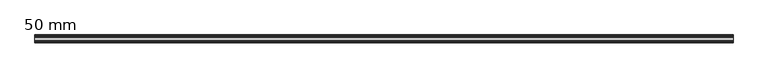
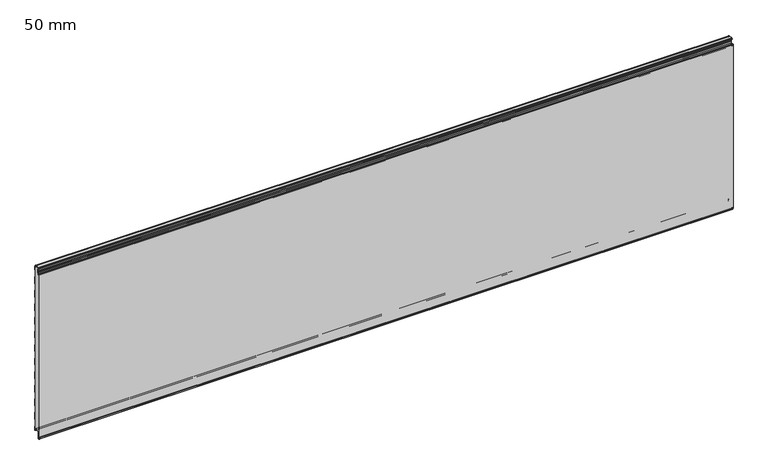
"""IFC4 building model written with IfcOpenShell, lengths in millimetres: plate geometry, HIANSA PANEL - H20.F05.004-HFM-PANELES DE FACHADA HOR - PANEL LISO - Panel de Muro Cortina : 50 mm."""

from ifc_helpers import new_model, si_unit, point, frame, frame_2d, origin, place, context, project, spatial, polyline, circle_curve, trimmed, segment, composite_curve, outline, extrude, source, transform, mapped, element, save


def plate_50_mm_5ad36695(model_context):
    return source(origin(), model_context, "Body", "SweptSolid", [
        extrude(outline(polyline([(-33.7988607, 1122.7800953), (-33.0080811, 1123.2810466), (-13.7002601, 1123.2810466), (-12.8994274, 1122.7800953), (-33.7988607, 1122.7800953)])), frame((-2200.0, 0.0, 0.0), z_axis=(1.0, 0.0, 0.0), x_axis=(0.0, 1.0, 0.0)), (0.0, 0.0, 1.0), 4400.0),
        extrude(outline(polyline([(-33.772834, 25.3210467), (-12.920579, 25.3210467), (-13.7002597, 24.8210465), (-33.011032, 24.8210465), (-33.772834, 25.3210467)])), frame((-2200.0, 0.0, 0.0), z_axis=(1.0, 0.0, 0.0), x_axis=(0.0, 1.0, 0.0)), (0.0, 0.0, 1.0), 4400.0),
        extrude(outline(composite_curve([segment(polyline([(-49.9990488, 1086.1667807), (-49.3593999, 1088.7253764)]), True, "CONTINUOUS"), segment(trimmed(circle_curve(frame_2d((-47.5161291, 1088.2645587)), 1.9), [point((-49.3593999, 1088.7253764))], [point((-47.5161291, 1090.1645587))], False, "CARTESIAN"), True, "CONTINUOUS"), segment(polyline([(-47.5161291, 1090.1645587), (-45.3767084, 1090.1645587)]), True, "CONTINUOUS"), segment(trimmed(circle_curve(frame_2d((-45.3767084, 1089.1645587)), 1.0), [point((-45.3767084, 1090.1645587))], [point((-44.3767084, 1089.1645587))], False, "CARTESIAN"), True, "CONTINUOUS"), segment(polyline([(-44.3767084, 1089.1645587), (-44.3767084, 1079.2490488)]), True, "CONTINUOUS"), segment(trimmed(circle_curve(frame_2d((-43.3767084, 1079.2490488)), 1.0), [point((-44.3767084, 1079.2490488))], [point((-43.3767084, 1078.2490488))], True, "CARTESIAN"), True, "CONTINUOUS"), segment(polyline([(-43.3767084, 1078.2490488), (-39.1267084, 1078.2490488)]), True, "CONTINUOUS"), segment(trimmed(circle_curve(frame_2d((-39.1267084, 1079.2490488)), 1.0), [point((-39.1267084, 1078.2490488))], [point((-38.1267084, 1079.2490488))], True, "CARTESIAN"), True, "CONTINUOUS"), segment(polyline([(-38.1267084, 1079.2490488), (-38.1267084, 1082.1003519)]), True, "CONTINUOUS"), segment(trimmed(circle_curve(frame_2d((-36.1267084, 1082.1003519)), 2.0), [point((-38.1267084, 1082.1003519))], [point((-37.2738613, 1083.738656))], False, "CARTESIAN"), True, "CONTINUOUS"), segment(polyline([(-37.2738613, 1083.738656), (-31.2163437, 1087.9801754)]), True, "CONTINUOUS"), segment(trimmed(circle_curve(frame_2d((-32.0767084, 1089.2089035)), 1.5), [point((-31.2163437, 1087.9801754))], [point((-30.5767084, 1089.2089035))], True, "CARTESIAN"), True, "CONTINUOUS"), segment(polyline([(-30.5767084, 1089.2089035), (-30.5767084, 1098.4402031), (-29.6767084, 1099.9990488), (-30.5767084, 1101.5578945), (-30.5767084, 1110.7891941)]), True, "CONTINUOUS"), segment(trimmed(circle_curve(frame_2d((-32.0767084, 1110.7891941)), 1.5), [point((-30.5767084, 1110.7891941))], [point((-31.2163437, 1112.0179221))], True, "CARTESIAN"), True, "CONTINUOUS"), segment(polyline([(-31.2163437, 1112.0179221), (-37.2738613, 1116.2594416)]), True, "CONTINUOUS"), segment(trimmed(circle_curve(frame_2d((-36.1267084, 1117.8977457)), 2.0), [point((-37.2738613, 1116.2594416))], [point((-38.1267084, 1117.8977457))], False, "CARTESIAN"), True, "CONTINUOUS"), segment(polyline([(-38.1267084, 1117.8977457), (-38.1267084, 1121.2800953)]), True, "CONTINUOUS"), segment(trimmed(circle_curve(frame_2d((-36.1267084, 1121.2800953)), 2.0), [point((-38.1267084, 1121.2800953))], [point((-36.1267084, 1123.2800953))], False, "CARTESIAN"), True, "CONTINUOUS"), segment(polyline([(-36.1267084, 1123.2800953), (-33.0095828, 1123.2800953), (-33.7988607, 1122.7800953), (-36.1267084, 1122.7800953)]), True, "CONTINUOUS"), segment(trimmed(circle_curve(frame_2d((-36.1267084, 1121.2800953)), 1.5), [point((-36.1267084, 1122.7800953))], [point((-37.6267084, 1121.2800953))], True, "CARTESIAN"), True, "CONTINUOUS"), segment(polyline([(-37.6267084, 1121.2800953), (-37.6267084, 1117.8977457)]), True, "CONTINUOUS"), segment(trimmed(circle_curve(frame_2d((-36.1267084, 1117.8977457)), 1.5), [point((-37.6267084, 1117.8977457))], [point((-36.987073, 1116.6690176))], True, "CARTESIAN"), True, "CONTINUOUS"), segment(polyline([(-36.987073, 1116.6690176), (-30.9295555, 1112.4274982)]), True, "CONTINUOUS"), segment(trimmed(circle_curve(frame_2d((-32.0767084, 1110.7891941)), 2.0), [point((-30.9295555, 1112.4274982))], [point((-30.0767084, 1110.7891941))], False, "CARTESIAN"), True, "CONTINUOUS"), segment(polyline([(-30.0767084, 1110.7891941), (-30.0767084, 1101.6918691), (-29.3880333, 1100.4990488)]), True, "CONTINUOUS"), segment(trimmed(circle_curve(frame_2d((-30.2540587, 1099.9990488)), 1.0), [point((-29.3880333, 1100.4990488))], [point((-29.3880333, 1099.4990488))], False, "CARTESIAN"), True, "CONTINUOUS"), segment(polyline([(-29.3880333, 1099.4990488), (-30.0767084, 1098.3062285), (-30.0767084, 1089.2089035)]), True, "CONTINUOUS"), segment(trimmed(circle_curve(frame_2d((-32.0767084, 1089.2089035)), 2.0), [point((-30.0767084, 1089.2089035))], [point((-30.9295555, 1087.5705994))], False, "CARTESIAN"), True, "CONTINUOUS"), segment(polyline([(-30.9295555, 1087.5705994), (-36.987073, 1083.32908)]), True, "CONTINUOUS"), segment(trimmed(circle_curve(frame_2d((-36.1267084, 1082.1003519)), 1.5), [point((-36.987073, 1083.32908))], [point((-37.6267084, 1082.1003519))], True, "CARTESIAN"), True, "CONTINUOUS"), segment(polyline([(-37.6267084, 1082.1003519), (-37.6267084, 1079.2490488)]), True, "CONTINUOUS"), segment(trimmed(circle_curve(frame_2d((-39.1267084, 1079.2490488)), 1.5), [point((-37.6267084, 1079.2490488))], [point((-39.1267084, 1077.7490488))], False, "CARTESIAN"), True, "CONTINUOUS"), segment(polyline([(-39.1267084, 1077.7490488), (-43.3767084, 1077.7490488)]), True, "CONTINUOUS"), segment(trimmed(circle_curve(frame_2d((-43.3767084, 1079.2490488)), 1.5), [point((-43.3767084, 1077.7490488))], [point((-44.8767084, 1079.2490488))], False, "CARTESIAN"), True, "CONTINUOUS"), segment(polyline([(-44.8767084, 1079.2490488), (-44.8767084, 1089.6645587), (-47.5161291, 1089.6645587)]), True, "CONTINUOUS"), segment(trimmed(circle_curve(frame_2d((-47.5161291, 1088.2645587)), 1.4), [point((-47.5161291, 1089.6645587))], [point((-48.8743286, 1088.6041086))], True, "CARTESIAN"), True, "CONTINUOUS"), segment(polyline([(-48.8743286, 1088.6041086), (-49.4990488, 1086.1052279), (-49.4990488, -5.7761105), (-48.8741312, -8.2757808)]), True, "CONTINUOUS"), segment(trimmed(circle_curve(frame_2d((-47.5169431, -7.9364838)), 1.3989577), [point((-48.8741312, -8.2757808))], [point((-47.5169431, -9.3354415))], True, "CARTESIAN"), True, "CONTINUOUS"), segment(polyline([(-47.5169431, -9.3354415), (-45.1267084, -9.3354413)]), True, "CONTINUOUS"), segment(trimmed(circle_curve(frame_2d((-45.1267084, -10.8354413)), 1.5), [point((-45.1267084, -9.3354413))], [point((-43.6267084, -10.8354413))], False, "CARTESIAN"), True, "CONTINUOUS"), segment(polyline([(-43.6267084, -10.8354413), (-43.6267084, -20.7509512), (-38.8767084, -20.7509512), (-38.8767084, 22.7800953)]), True, "CONTINUOUS"), segment(trimmed(circle_curve(frame_2d((-36.3367084, 22.7800953)), 2.54), [point((-38.8767084, 22.7800953))], [point((-36.3367084, 25.3200953))], False, "CARTESIAN"), True, "CONTINUOUS"), segment(polyline([(-36.3367084, 25.3200953), (-33.7713844, 25.3200953), (-33.0095828, 24.8200953), (-36.3367084, 24.8200953)]), True, "CONTINUOUS"), segment(trimmed(circle_curve(frame_2d((-36.3367084, 22.7800953)), 2.04), [point((-36.3367084, 24.8200953))], [point((-38.3767084, 22.7800953))], True, "CARTESIAN"), True, "CONTINUOUS"), segment(polyline([(-38.3767084, 22.7800953), (-38.3767084, -20.2509512)]), True, "CONTINUOUS"), segment(trimmed(circle_curve(frame_2d((-39.3767084, -20.2509512)), 1.0), [point((-38.3767084, -20.2509512))], [point((-39.3767084, -21.2509512))], False, "CARTESIAN"), True, "CONTINUOUS"), segment(polyline([(-39.3767084, -21.2509512), (-43.1267084, -21.2509512)]), True, "CONTINUOUS"), segment(trimmed(circle_curve(frame_2d((-43.1267084, -20.2509512)), 1.0), [point((-43.1267084, -21.2509512))], [point((-44.1267084, -20.2509512))], False, "CARTESIAN"), True, "CONTINUOUS"), segment(polyline([(-44.1267084, -20.2509512), (-44.1267084, -10.8354413)]), True, "CONTINUOUS"), segment(trimmed(circle_curve(frame_2d((-45.1267084, -10.8354413)), 1.0), [point((-44.1267084, -10.8354413))], [point((-45.1267084, -9.8354413))], True, "CARTESIAN"), True, "CONTINUOUS"), segment(polyline([(-45.1267084, -9.8354413), (-47.5161291, -9.8354413)]), True, "CONTINUOUS"), segment(trimmed(circle_curve(frame_2d((-47.5161291, -7.9354413)), 1.9), [point((-47.5161291, -9.8354413))], [point((-49.3593999, -8.396259))], False, "CARTESIAN"), True, "CONTINUOUS"), segment(polyline([(-49.3593999, -8.396259), (-49.9990488, -5.8376633), (-49.9990488, 1086.1667807)]), True, "CONTINUOUS")], self_intersect=False)), frame((-2200.0, 0.0, 0.0), z_axis=(1.0, 0.0, 0.0), x_axis=(0.0, 1.0, 0.0)), (0.0, 0.0, 1.0), 4400.0),
        extrude(outline(composite_curve([segment(polyline([(-49.4927405, -5.8041988), (-49.4927405, 1086.1352189), (-48.8752803, 1088.6050599)]), True, "CONTINUOUS"), segment(trimmed(circle_curve(frame_2d((-47.5170808, 1088.26551)), 1.4), [point((-48.8752803, 1088.6050599))], [point((-47.5170808, 1089.66551))], False, "CARTESIAN"), True, "CONTINUOUS"), segment(polyline([(-47.5170808, 1089.66551), (-44.8776601, 1089.66551), (-44.8776601, 1079.2500001)]), True, "CONTINUOUS"), segment(trimmed(circle_curve(frame_2d((-43.3776601, 1079.2500001)), 1.5), [point((-44.8776601, 1079.2500001))], [point((-43.3776601, 1077.7500001))], True, "CARTESIAN"), True, "CONTINUOUS"), segment(polyline([(-43.3776601, 1077.7500001), (-39.1276601, 1077.7500001)]), True, "CONTINUOUS"), segment(trimmed(circle_curve(frame_2d((-39.1276601, 1079.2500001)), 1.5), [point((-39.1276601, 1077.7500001))], [point((-37.6276601, 1079.2500001))], True, "CARTESIAN"), True, "CONTINUOUS"), segment(polyline([(-37.6276601, 1079.2500001), (-37.6276601, 1082.1013032)]), True, "CONTINUOUS"), segment(trimmed(circle_curve(frame_2d((-36.1276601, 1082.1013032)), 1.5), [point((-37.6276601, 1082.1013032))], [point((-36.9880247, 1083.3300313))], False, "CARTESIAN"), True, "CONTINUOUS"), segment(polyline([(-36.9880247, 1083.3300313), (-30.9305072, 1087.5715507)]), True, "CONTINUOUS"), segment(trimmed(circle_curve(frame_2d((-32.0776601, 1089.2098548)), 2.0), [point((-30.9305072, 1087.5715507))], [point((-30.0776601, 1089.2098548))], True, "CARTESIAN"), True, "CONTINUOUS"), segment(polyline([(-30.0776601, 1089.2098548), (-30.0776601, 1098.3071798), (-29.3889849, 1099.5000001)]), True, "CONTINUOUS"), segment(trimmed(circle_curve(frame_2d((-30.2550103, 1100.0000001)), 1.0), [point((-29.3889849, 1099.5000001))], [point((-29.3889849, 1100.5000001))], True, "CARTESIAN"), True, "CONTINUOUS"), segment(polyline([(-29.3889849, 1100.5000001), (-30.0776601, 1101.6928204), (-30.0776601, 1110.7901454)]), True, "CONTINUOUS"), segment(trimmed(circle_curve(frame_2d((-32.0776601, 1110.7901454)), 2.0), [point((-30.0776601, 1110.7901454))], [point((-30.9305072, 1112.4284495))], True, "CARTESIAN"), True, "CONTINUOUS"), segment(polyline([(-30.9305072, 1112.4284495), (-36.9880247, 1116.6699689)]), True, "CONTINUOUS"), segment(trimmed(circle_curve(frame_2d((-36.1276601, 1117.898697)), 1.5), [point((-36.9880247, 1116.6699689))], [point((-37.6276601, 1117.898697))], False, "CARTESIAN"), True, "CONTINUOUS"), segment(polyline([(-37.6276601, 1117.898697), (-37.6276601, 1121.2810466)]), True, "CONTINUOUS"), segment(trimmed(circle_curve(frame_2d((-36.1276601, 1121.2810466)), 1.5), [point((-37.6276601, 1121.2810466))], [point((-36.1276601, 1122.7810466))], False, "CARTESIAN"), True, "CONTINUOUS"), segment(polyline([(-36.1276601, 1122.7810466), (-7.7500005, 1122.7810466)]), True, "CONTINUOUS"), segment(trimmed(circle_curve(frame_2d((-7.7500005, 1121.7810466)), 1.0), [point((-7.7500005, 1122.7810466))], [point((-6.7500005, 1121.7810466))], False, "CARTESIAN"), True, "CONTINUOUS"), segment(polyline([(-6.7500005, 1121.7810466), (-6.7500005, 1115.631732)]), True, "CONTINUOUS"), segment(trimmed(circle_curve(frame_2d((-4.7460005, 1115.631732)), 2.004), [point((-6.7500005, 1115.631732))], [point((-4.7460005, 1113.627732))], True, "CARTESIAN"), True, "CONTINUOUS"), segment(polyline([(-4.7460005, 1113.627732), (-1.5, 1113.627732)]), True, "CONTINUOUS"), segment(trimmed(circle_curve(frame_2d((-1.5, 1112.627732)), 1.0), [point((-1.5, 1113.627732))], [point((-0.5, 1112.627732))], False, "CARTESIAN"), True, "CONTINUOUS"), segment(polyline([(-0.5, 1112.627732), (-0.5, 1087.7488722), (-1.5000005, 1084.7488708), (-1.5000005, 1044.5865932), (-0.5000005, 1041.5865932), (-0.5000005, 996.7488708), (-1.5000005, 993.7488708), (-1.5000005, 953.5865932), (-0.5000005, 950.5865932), (-0.5000005, 905.7488708), (-1.5000005, 902.7488708), (-1.5000005, 862.5865932), (-0.5000005, 859.5865932), (-0.5000005, 814.7488708), (-1.5000005, 811.7488708), (-1.5000005, 771.5865932), (-0.5000005, 768.5865932), (-0.5000005, 723.7488708), (-1.5000005, 720.7488708), (-1.5000005, 680.5865932), (-0.5000005, 677.5865932), (-0.5000005, 632.7488708), (-1.5000005, 629.7488708), (-1.5000005, 589.5865932), (-0.5000005, 586.5865932), (-0.5000005, 541.7488708), (-1.5000005, 538.7488708), (-1.5000005, 498.5865932), (-0.5000005, 495.5865932), (-0.5000005, 450.7488708), (-1.5000005, 447.7488708), (-1.5000005, 407.5865932), (-0.5000005, 404.5865932), (-0.5000005, 359.7488708), (-1.5000005, 356.7488708), (-1.5000005, 316.5865932), (-0.5000005, 313.5865932), (-0.5000005, 268.7488708), (-1.5000005, 265.7488708), (-1.5000005, 225.5865932), (-0.5000005, 222.5865932), (-0.5000005, 177.7488708), (-1.5000005, 174.7488708), (-1.5000005, 134.5865932), (-0.5000005, 131.5865932), (-0.5000005, 86.7488708), (-1.5000005, 83.7488708), (-1.5000005, 43.5865932), (-0.5, 40.5865932), (-0.5, 15.6677319)]), True, "CONTINUOUS"), segment(trimmed(circle_curve(frame_2d((-1.4999997, 15.6677319)), 0.9999997), [point((-0.5, 15.6677319))], [point((-1.4999977, 14.6677322))], False, "CARTESIAN"), True, "CONTINUOUS"), segment(polyline([(-1.4999977, 14.6677322), (-4.4999978, 14.6677261)]), True, "CONTINUOUS"), segment(trimmed(circle_curve(frame_2d((-4.4999998, 15.6677321)), 1.0000061), [point((-4.4999978, 14.6677261))], [point((-5.5000059, 15.6677321))], False, "CARTESIAN"), True, "CONTINUOUS"), segment(polyline([(-5.5000059, 15.6677321), (-5.5000059, 23.2810466)]), True, "CONTINUOUS"), segment(trimmed(circle_curve(frame_2d((-7.540006, 23.2810466)), 2.0400002), [point((-5.5000059, 23.2810466))], [point((-7.540006, 25.3210467))], True, "CARTESIAN"), True, "CONTINUOUS"), segment(polyline([(-7.540006, 25.3210467), (-36.3376599, 25.3210467)]), True, "CONTINUOUS"), segment(trimmed(circle_curve(frame_2d((-36.3376599, 22.7810466)), 2.5400001), [point((-36.3376599, 25.3210467))], [point((-38.8776601, 22.7810466))], True, "CARTESIAN"), True, "CONTINUOUS"), segment(polyline([(-38.8776601, 22.7810466), (-38.8776601, -20.7499999), (-43.6276601, -20.7499999), (-43.6276601, -10.83449)]), True, "CONTINUOUS"), segment(trimmed(circle_curve(frame_2d((-45.1276601, -10.83449)), 1.5), [point((-43.6276601, -10.83449))], [point((-45.1276601, -9.33449))], True, "CARTESIAN"), True, "CONTINUOUS"), segment(polyline([(-45.1276601, -9.33449), (-47.5178947, -9.33449)]), True, "CONTINUOUS"), segment(trimmed(circle_curve(frame_2d((-47.5178947, -7.9355324)), 1.3989576), [point((-47.5178947, -9.33449))], [point((-48.8750829, -8.2748295))], False, "CARTESIAN"), True, "CONTINUOUS"), segment(polyline([(-48.8750829, -8.2748295), (-49.4927405, -5.8041988)]), True, "CONTINUOUS")], self_intersect=False)), frame((-2200.0, 0.0, 0.0), z_axis=(1.0, 0.0, 0.0), x_axis=(0.0, 1.0, 0.0)), (0.0, 0.0, 1.0), 4400.0),
        extrude(outline(composite_curve([segment(polyline([(-13.7002597, 24.8210465), (-12.9205793, 25.3210465), (-7.5400057, 25.3210465)]), True, "CONTINUOUS"), segment(trimmed(circle_curve(frame_2d((-7.5400057, 23.2810465)), 2.04), [point((-7.5400057, 25.3210465))], [point((-5.5000057, 23.2810465))], False, "CARTESIAN"), True, "CONTINUOUS"), segment(polyline([(-5.5000057, 23.2810465), (-5.5000057, 15.6677319)]), True, "CONTINUOUS"), segment(trimmed(circle_curve(frame_2d((-4.5, 15.6677319)), 1.0000057), [point((-5.5000057, 15.6677319))], [point((-4.4999981, 14.6677262))], True, "CARTESIAN"), True, "CONTINUOUS"), segment(polyline([(-4.4999981, 14.6677262), (-1.4999981, 14.6677319)]), True, "CONTINUOUS"), segment(trimmed(circle_curve(frame_2d((-1.5, 15.6677319)), 1.0), [point((-1.4999981, 14.6677319))], [point((-0.5, 15.6677319))], True, "CARTESIAN"), True, "CONTINUOUS"), segment(polyline([(-0.5, 15.6677319), (-0.5, 40.5865931), (-1.5, 43.5865931), (-1.5, 83.7488708), (-0.5, 86.7488708), (-0.5, 131.5865931), (-1.5, 134.5865931), (-1.5, 174.7488708), (-0.5, 177.7488708), (-0.5, 222.5865931), (-1.5, 225.5865931), (-1.5, 265.7488708), (-0.5, 268.7488708), (-0.5, 313.5865931), (-1.5, 316.5865931), (-1.5, 356.7488708), (-0.5, 359.7488708), (-0.5, 404.5865931), (-1.5, 407.5865931), (-1.5, 447.7488708), (-0.5, 450.7488708), (-0.5, 495.5865931), (-1.5, 498.5865931), (-1.5, 538.7488708), (-0.5, 541.7488708), (-0.5, 586.5865931), (-1.5, 589.5865931), (-1.5, 629.7488708), (-0.5, 632.7488708), (-0.5, 677.5865931), (-1.5, 680.5865931), (-1.5, 720.7488708), (-0.5, 723.7488708), (-0.5, 768.5865931), (-1.5, 771.5865931), (-1.5, 811.7488708), (-0.5, 814.7488708), (-0.5, 859.5865931), (-1.5, 862.5865931), (-1.5, 902.7488708), (-0.5, 905.7488708), (-0.5, 950.5865931), (-1.5, 953.5865931), (-1.5, 993.7488708), (-0.5, 996.7488708), (-0.5, 1041.5865931), (-1.5, 1044.5865931), (-1.5, 1084.7488708), (-0.5, 1087.7488708), (-0.5, 1112.6277319)]), True, "CONTINUOUS"), segment(trimmed(circle_curve(frame_2d((-1.5, 1112.6277319)), 1.0), [point((-0.5, 1112.6277319))], [point((-1.5, 1113.6277319))], True, "CARTESIAN"), True, "CONTINUOUS"), segment(polyline([(-1.5, 1113.6277319), (-4.746, 1113.6277319)]), True, "CONTINUOUS"), segment(trimmed(circle_curve(frame_2d((-4.746, 1115.6317319)), 2.004), [point((-4.746, 1113.6277319))], [point((-6.75, 1115.6317319))], False, "CARTESIAN"), True, "CONTINUOUS"), segment(polyline([(-6.75, 1115.6317319), (-6.75, 1121.7810465)]), True, "CONTINUOUS"), segment(trimmed(circle_curve(frame_2d((-7.75, 1121.7810465)), 1.0), [point((-6.75, 1121.7810465))], [point((-7.75, 1122.7810465))], True, "CARTESIAN"), True, "CONTINUOUS"), segment(polyline([(-7.75, 1122.7810465), (-12.9009477, 1122.7810465), (-13.7002597, 1123.2810465), (-7.7500057, 1123.2810465)]), True, "CONTINUOUS"), segment(trimmed(circle_curve(frame_2d((-7.7500057, 1121.7810465)), 1.5), [point((-7.7500057, 1123.2810465))], [point((-6.2500057, 1121.7810465))], False, "CARTESIAN"), True, "CONTINUOUS"), segment(polyline([(-6.2500057, 1121.7810465), (-6.2500057, 1115.631727)]), True, "CONTINUOUS"), segment(trimmed(circle_curve(frame_2d((-4.7460057, 1115.631727)), 1.504), [point((-6.2500057, 1115.631727))], [point((-4.7460034, 1114.127727))], True, "CARTESIAN"), True, "CONTINUOUS"), segment(polyline([(-4.7460034, 1114.127727), (-1.5000023, 1114.1277319)]), True, "CONTINUOUS"), segment(trimmed(circle_curve(frame_2d((-1.5, 1112.6277319)), 1.5), [point((-1.5000023, 1114.1277319))], [point((0.0, 1112.6277319))], False, "CARTESIAN"), True, "CONTINUOUS"), segment(polyline([(0.0, 1112.6277319), (0.0, 1087.6677319), (-1.0, 1084.6677319), (-1.0, 1044.6677319), (0.0, 1041.6677319), (0.0, 996.6677319), (-1.0, 993.6677319), (-1.0, 953.6677319), (0.0, 950.6677319), (0.0, 905.6677319), (-1.0, 902.6677319), (-1.0, 862.6677319), (0.0, 859.6677319), (0.0, 814.6677319), (-1.0, 811.6677319), (-1.0, 771.6677319), (0.0, 768.6677319), (0.0, 723.6677319), (-1.0, 720.6677319), (-1.0, 680.6677319), (0.0, 677.6677319), (0.0, 632.6677319), (-1.0, 629.6677319), (-1.0, 589.6677319), (0.0, 586.6677319), (0.0, 541.6677319), (-1.0, 538.6677319), (-1.0, 498.6677319), (0.0, 495.6677319), (0.0, 450.6677319), (-1.0, 447.6677319), (-1.0, 407.6677319), (0.0, 404.6677319), (0.0, 359.6677319), (-1.0, 356.6677319), (-1.0, 316.6677319), (0.0, 313.6677319), (0.0, 268.6677319), (-1.0, 265.6677319), (-1.0, 225.6677319), (0.0, 222.6677319), (0.0, 177.6677319), (-1.0, 174.6677319), (-1.0, 134.6677319), (0.0, 131.6677319), (0.0, 86.6677319), (-1.0, 83.6677319), (-1.0, 43.6677319), (0.0, 40.6677319), (0.0, 15.6677319)]), True, "CONTINUOUS"), segment(trimmed(circle_curve(frame_2d((-1.5, 15.6677319)), 1.5), [point((0.0, 15.6677319))], [point((-1.5, 14.1677319))], False, "CARTESIAN"), True, "CONTINUOUS"), segment(polyline([(-1.5, 14.1677319), (-4.5, 14.1677319)]), True, "CONTINUOUS"), segment(trimmed(circle_curve(frame_2d((-4.5, 15.6677319)), 1.5), [point((-4.5, 14.1677319))], [point((-6.0, 15.6677319))], False, "CARTESIAN"), True, "CONTINUOUS"), segment(polyline([(-6.0, 15.6677319), (-6.0, 23.2810465)]), True, "CONTINUOUS"), segment(trimmed(circle_curve(frame_2d((-7.54, 23.2810465)), 1.54), [point((-6.0, 23.2810465))], [point((-7.54, 24.8210465))], True, "CARTESIAN"), True, "CONTINUOUS"), segment(polyline([(-7.54, 24.8210465), (-13.7002597, 24.8210465)]), True, "CONTINUOUS")], self_intersect=False)), frame((-2200.0, 0.0, 0.0), z_axis=(1.0, 0.0, 0.0), x_axis=(0.0, 1.0, 0.0)), (0.0, 0.0, 1.0), 4400.0),
    ])


if __name__ == "__main__":
    model = new_model("IFC4")
    model_context = context("Model", 3, world=origin())
    ifc_project = project(units=[si_unit("LENGTHUNIT", "METRE", prefix="MILLI")], contexts=[model_context])
    site = spatial("IfcSite", under=ifc_project)
    building = spatial("IfcBuilding", under=site)
    placement = place(None, origin())
    plate_50_mm_shape = plate_50_mm_5ad36695(model_context)
    element("IfcPlate", 1, ObjectType="HIANSA PANEL - H20.F05.004-HFM-PANELES DE FACHADA HOR - PANEL LISO - Panel de Muro Cortina : 50 mm", at=placement, inside=building, context=model_context, shape_type="MappedRepresentation", body=[
        mapped(plate_50_mm_shape, transform((0.0, 0.0, 0.0), x_axis=(1.0, 0.0, 0.0), y_axis=(0.0, 1.0, 0.0), z_axis=(0.0, 0.0, 1.0))),
    ])
    save(model, "model.ifc")
